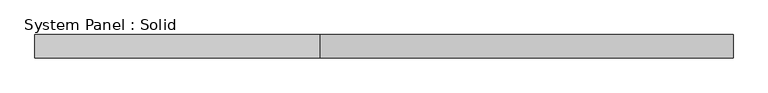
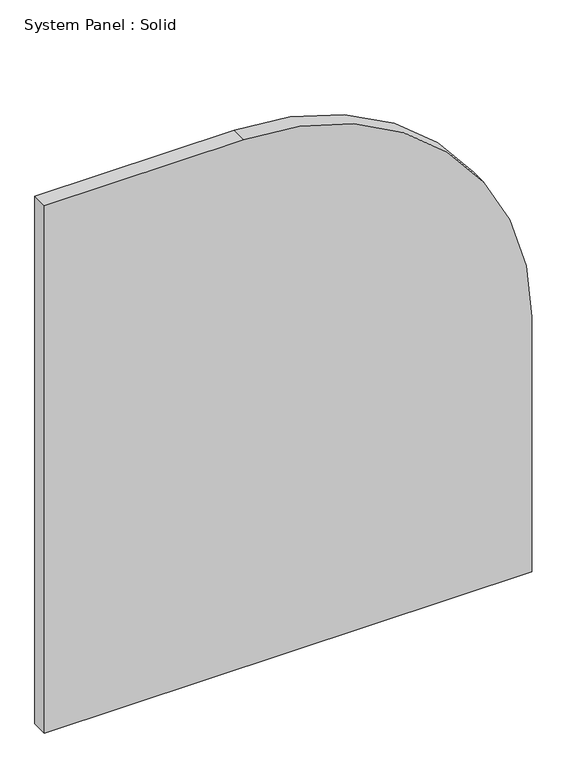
"""IFC4 building model written with IfcOpenShell, lengths in millimetres: plate geometry, System Panel : Solid."""

from ifc_helpers import new_model, si_unit, point, frame, frame_2d, origin, place, context, project, spatial, polyline, circle_curve, trimmed, segment, composite_curve, outline, extrude, source, transform, mapped, element, save


def system_panel_solid_7204bcb4(model_context):
    return source(origin(), model_context, "Body", "SweptSolid", [
        extrude(outline(composite_curve([segment(polyline([(0.0, -519.9999998), (0.0, 519.9999998), (575.0, 519.9999998)]), True, "CONTINUOUS"), segment(trimmed(circle_curve(frame_2d((575.0, -95.0000002)), 615.0), [point((575.0, 519.9999998))], [point((1190.0, -95.0000002))], False, "CARTESIAN"), True, "CONTINUOUS"), segment(polyline([(1190.0, -95.0000002), (1190.0, -519.9999998), (0.0, -519.9999998)]), True, "CONTINUOUS")], self_intersect=False)), frame((0.0, -2.5, 0.0), z_axis=(0.0, 1.0, 0.0), x_axis=(0.0, 0.0, 1.0)), (0.0, 0.0, 1.0), 35.0),
    ])


if __name__ == "__main__":
    model = new_model("IFC4")
    model_context = context("Model", 3, world=origin())
    ifc_project = project(units=[si_unit("LENGTHUNIT", "METRE", prefix="MILLI")], contexts=[model_context])
    site = spatial("IfcSite", under=ifc_project)
    building = spatial("IfcBuilding", under=site)
    placement = place(None, origin())
    system_panel_solid_shape = system_panel_solid_7204bcb4(model_context)
    element("IfcPlate", 1, ObjectType="System Panel : Solid", at=placement, inside=building, context=model_context, shape_type="MappedRepresentation", body=[
        mapped(system_panel_solid_shape, transform((0.0, 0.0, 0.0), x_axis=(1.0, 0.0, 0.0), y_axis=(0.0, 1.0, 0.0), z_axis=(0.0, 0.0, 1.0))),
    ])
    save(model, "model.ifc")
